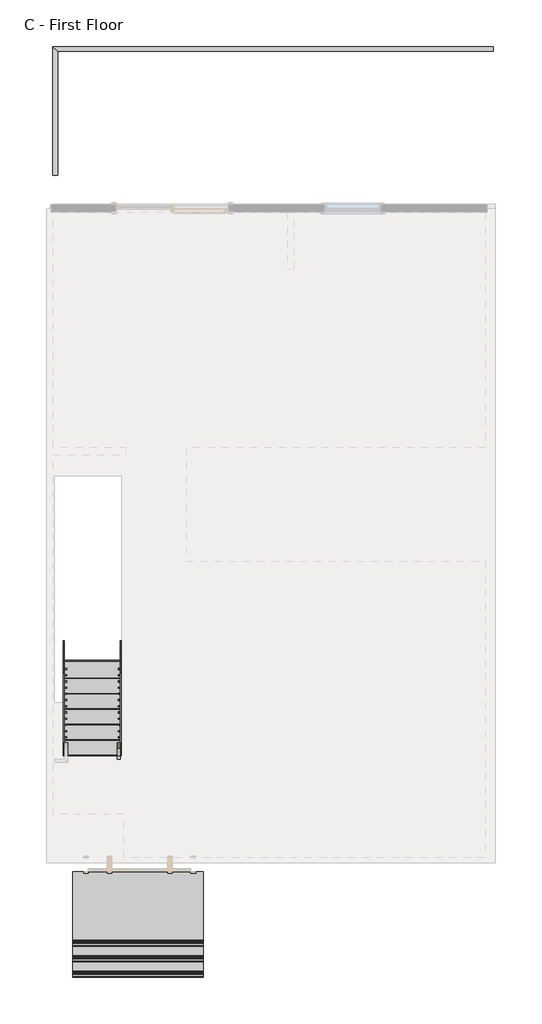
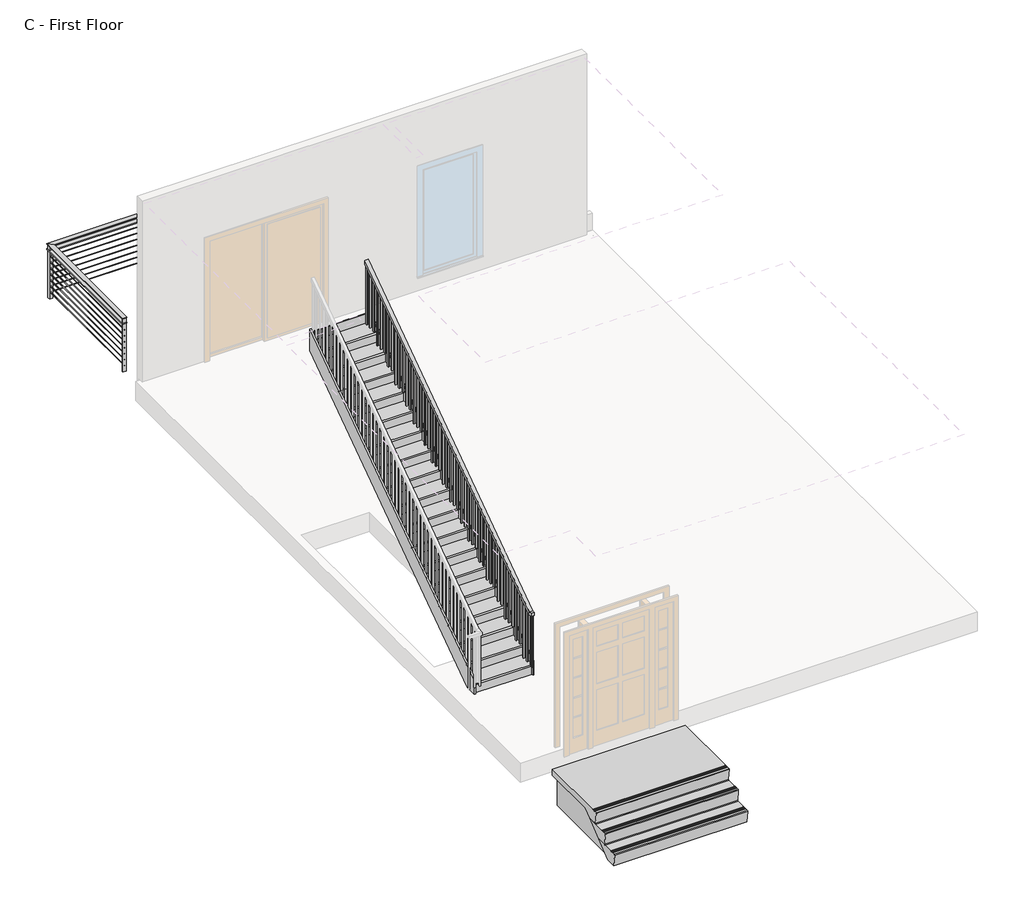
# One storey, part 2 of 2: 2 members, 2 railings, 1 proxy, 1 stair flight.
"""IFC4 building model written with IfcOpenShell, lengths in millimetres."""

from ifc_helpers import new_model, si_unit, frame, origin, place, context, project, spatial, polyline, circle_curve, ellipse_curve, outline, extrude, faceted_brep, transform, mapped, element, save
from ifc_brep_helpers import plane_surface, cylinder_surface, advanced_brep
from components import precast_porch_and_stair_11277_precast_porch_and_stair_11277_55bbf17a, stair_flight_560492a1

model = new_model("IFC4")

# Units and contexts
model_context = context("Model", 3, world=origin())
ifc_project = project(units=[si_unit("LENGTHUNIT", "METRE", prefix="MILLI")], contexts=[model_context])

# Site, building, storey
site = spatial("IfcSite", under=ifc_project)
building = spatial("IfcBuilding", under=site)
storey = spatial("IfcBuildingStorey", under=building, Name="C - First Floor", Elevation=1219.2)

# Proxy
placement = place(None, origin())
precast_porch_and_stair_11277_precast_porch_and_stair_11277_shape = precast_porch_and_stair_11277_precast_porch_and_stair_11277_55bbf17a(model_context)
element("IfcBuildingElementProxy", 1, Name="Precast_Porch_and_Stair_11277 : Precast_Porch_and_Stair_11277", ObjectType="Precast_Porch_and_Stair_11277 : Precast_Porch_and_Stair_11277", at=placement, inside=storey, context=model_context, shape_type="MappedRepresentation", body=[
    mapped(precast_porch_and_stair_11277_precast_porch_and_stair_11277_shape, transform((4755.498124, -7354.5289462, 457.2), x_axis=(0.0, -1.0, 0.0), y_axis=(1.0, 0.0, 0.0), z_axis=(0.0, 0.0, 1.0))),
])

# Members
element("IfcMember", 2, ObjectType="Stringer - Paint - 3/4\" Width", at=placement, inside=storey, context=model_context, shape_type="SweptSolid", body=[
    extrude(outline(polyline([(-5459.0539462, 1238.25), (-5459.0539462, 1476.1557145), (-887.0539462, 4670.539925), (-887.0539462, 4298.7139533), (-5267.3790017, 1238.25), (-5459.0539462, 1238.25)])), frame((3529.4870514, 0.0, 0.0), z_axis=(1.0, 0.0, 0.0), x_axis=(0.0, 1.0, 0.0)), (0.0, 0.0, 1.0), 19.05),
])
element("IfcMember", 3, ObjectType="Stringer - Paint - 3/4\" Width", at=placement, inside=storey, context=model_context, shape_type="SweptSolid", body=[
    extrude(outline(polyline([(-5459.0539462, 1238.25), (-5459.0539462, 1476.1557145), (-887.0539462, 4670.539925), (-887.0539462, 4298.7139533), (-5267.3790017, 1238.25), (-5459.0539462, 1238.25)])), frame((4462.9370514, 0.0, 0.0), z_axis=(1.0, 0.0, 0.0), x_axis=(0.0, 1.0, 0.0)), (0.0, 0.0, 1.0), 19.05),
])

# Railings
element("IfcRailing", 4, ObjectType="36\"", at=placement, inside=storey, context=model_context, shape_type="SolidModel", body=[
    faceted_brep([(10561.8552966, 6066.1960538, 1917.7), (10561.8552966, 6066.1960538, 1905.0), (10561.8552966, 6142.3960538, 1905.0), (10561.8552966, 6142.3960538, 1917.7), (3360.9552966, 6142.3960538, 1905.0), (3360.9552966, 6142.3960538, 1917.7), (3437.1552966, 6066.1960538, 1917.7), (3437.1552966, 4040.5460538, 1917.7), (3360.9552966, 4040.5460538, 1917.7), (3360.9552966, 4040.5460538, 1905.0), (3437.1552966, 4040.5460538, 1905.0), (3437.1552966, 6066.1960538, 1905.0)], [[[0, 1, 2, 3]], [[3, 2, 4, 5]], [[0, 3, 5, 6]], [[7, 8, 9, 10]], [[5, 4, 9, 8]], [[6, 5, 8, 7]], [[1, 0, 6, 11]], [[2, 1, 11, 4]], [[11, 6, 7, 10]], [[4, 11, 10, 9]]]),
    faceted_brep([(10561.8552966, 6142.3960538, 1828.8), (10561.8552966, 6066.1960538, 1828.8), (10561.8552966, 6066.1960538, 1816.1), (10561.8552966, 6142.3960538, 1816.1), (3360.9552966, 6142.3960538, 1828.8), (3437.1552966, 6066.1960538, 1828.8), (3437.1552966, 6066.1960538, 1816.1), (3360.9552966, 4040.5460538, 1828.8), (3360.9552966, 4040.5460538, 1816.1), (3437.1552966, 4040.5460538, 1816.1), (3437.1552966, 4040.5460538, 1828.8), (3360.9552966, 6142.3960538, 1816.1)], [[[0, 1, 2, 3]], [[1, 0, 4, 5]], [[2, 1, 5, 6]], [[7, 8, 9, 10]], [[5, 4, 7, 10]], [[6, 5, 10, 9]], [[3, 2, 6, 11]], [[0, 3, 11, 4]], [[11, 6, 9, 8]], [[4, 11, 8, 7]]]),
    advanced_brep(
    [(10561.8552966, 6101.1210538, 1714.5), (10561.8552966, 6107.4710538, 1714.5), (3402.2302966, 4040.5460538, 1714.5), (3395.8802966, 4040.5460538, 1714.5), (3402.2302966, 6101.1210538, 1714.5), (3395.8802966, 6107.4710538, 1714.5)],
    [
        (0, 1, circle_curve(frame((10561.8552966, 6104.2960538, 1714.5), z_axis=(1.0, 0.0, 0.0), x_axis=(0.0, 1.0, 0.0)), 3.175)),
        (1, 0, circle_curve(frame((10561.8552966, 6104.2960538, 1714.5), z_axis=(1.0, 0.0, 0.0), x_axis=(0.0, 1.0, 0.0)), 3.175)),
        (2, 3, circle_curve(frame((3399.0552966, 4040.5460538, 1714.5), z_axis=(0.0, -1.0, 0.0), x_axis=(-1.0, 0.0, 0.0)), 3.175)),
        (3, 2, circle_curve(frame((3399.0552966, 4040.5460538, 1714.5), z_axis=(0.0, -1.0, 0.0), x_axis=(-1.0, 0.0, 0.0)), 3.175)),
        (0, 4),
        (4, 5, ellipse_curve(frame((3399.0552966, 6104.2960538, 1714.5), z_axis=(0.7071067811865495, 0.7071067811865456, 0.0), x_axis=(0.7071067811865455, -0.7071067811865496, 0.0)), 4.4901281, 3.175)),
        (5, 1),
        (5, 4, ellipse_curve(frame((3399.0552966, 6104.2960538, 1714.5), z_axis=(0.7071067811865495, 0.7071067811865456, 0.0), x_axis=(0.7071067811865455, -0.7071067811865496, 0.0)), 4.4901281, 3.175)),
        (4, 2),
        (3, 5),
    ],
    [
        plane_surface(frame((10561.8552966, 6104.2960538, 1714.5), z_axis=(1.0, 0.0, 0.0), x_axis=(0.0, -1.0, 0.0))),
        plane_surface(frame((3399.0552966, 4040.5460538, 1714.5), z_axis=(0.0, -1.0, 0.0), x_axis=(0.0, 0.0, -1.0))),
        cylinder_surface(frame((10561.8552966, 6104.2960538, 1714.5), z_axis=(1.0, 0.0, 0.0), x_axis=(0.0, 1.0, 0.0)), 3.175),
        cylinder_surface(frame((3399.0552966, 6104.2960538, 1714.5), z_axis=(0.0, 1.0, 0.0), x_axis=(-1.0, 0.0, 0.0)), 3.175),
    ],
    [
        (0, [[1, 2]]),
        (1, [[3, 4]]),
        (2, [[-1, 5, 6, 7]]),
        (2, [[-2, -7, 8, -5]]),
        (3, [[-6, 9, -4, 10]]),
        (3, [[-8, -10, -3, -9]]),
    ],
),
    advanced_brep(
    [(10561.8552966, 6101.1210538, 1612.9), (10561.8552966, 6107.4710538, 1612.9), (3402.2302966, 6101.1210538, 1612.9), (3395.8802966, 6107.4710538, 1612.9), (3402.2302966, 4040.5460538, 1612.9), (3395.8802966, 4040.5460538, 1612.9)],
    [
        (0, 1, circle_curve(frame((10561.8552966, 6104.2960538, 1612.9), z_axis=(1.0, 0.0, 0.0), x_axis=(0.0, 1.0, 0.0)), 3.175)),
        (1, 0, circle_curve(frame((10561.8552966, 6104.2960538, 1612.9), z_axis=(1.0, 0.0, 0.0), x_axis=(0.0, 1.0, 0.0)), 3.175)),
        (0, 2),
        (2, 3, ellipse_curve(frame((3399.0552966, 6104.2960538, 1612.9), z_axis=(0.7071067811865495, 0.7071067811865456, 0.0), x_axis=(0.7071067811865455, -0.7071067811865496, 0.0)), 4.4901281, 3.175)),
        (3, 1),
        (3, 2, ellipse_curve(frame((3399.0552966, 6104.2960538, 1612.9), z_axis=(0.7071067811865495, 0.7071067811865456, 0.0), x_axis=(0.7071067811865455, -0.7071067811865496, 0.0)), 4.4901281, 3.175)),
        (4, 5, circle_curve(frame((3399.0552966, 4040.5460538, 1612.9), z_axis=(0.0, -1.0, 0.0), x_axis=(-1.0, 0.0, 0.0)), 3.175)),
        (5, 4, circle_curve(frame((3399.0552966, 4040.5460538, 1612.9), z_axis=(0.0, -1.0, 0.0), x_axis=(-1.0, 0.0, 0.0)), 3.175)),
        (2, 4),
        (5, 3),
    ],
    [
        plane_surface(frame((10561.8552966, 6104.2960538, 1612.9), z_axis=(1.0, 0.0, 0.0), x_axis=(0.0, -1.0, 0.0))),
        cylinder_surface(frame((10561.8552966, 6104.2960538, 1612.9), z_axis=(1.0, 0.0, 0.0), x_axis=(0.0, 1.0, 0.0)), 3.175),
        plane_surface(frame((3399.0552966, 4040.5460538, 1612.9), z_axis=(0.0, -1.0, 0.0), x_axis=(0.0, 0.0, -1.0))),
        cylinder_surface(frame((3399.0552966, 6104.2960538, 1612.9), z_axis=(0.0, 1.0, 0.0), x_axis=(-1.0, 0.0, 0.0)), 3.175),
    ],
    [
        (0, [[1, 2]]),
        (1, [[-1, 3, 4, 5]]),
        (1, [[-2, -5, 6, -3]]),
        (2, [[7, 8]]),
        (3, [[-4, 9, -8, 10]]),
        (3, [[-6, -10, -7, -9]]),
    ],
),
    advanced_brep(
    [(10561.8552966, 6101.1210538, 1511.3), (10561.8552966, 6107.4710538, 1511.3), (3402.2302966, 6101.1210538, 1511.3), (3395.8802966, 6107.4710538, 1511.3), (3402.2302966, 4040.5460538, 1511.3), (3395.8802966, 4040.5460538, 1511.3)],
    [
        (0, 1, circle_curve(frame((10561.8552966, 6104.2960538, 1511.3), z_axis=(1.0, 0.0, 0.0), x_axis=(0.0, 1.0, 0.0)), 3.175)),
        (1, 0, circle_curve(frame((10561.8552966, 6104.2960538, 1511.3), z_axis=(1.0, 0.0, 0.0), x_axis=(0.0, 1.0, 0.0)), 3.175)),
        (0, 2),
        (2, 3, ellipse_curve(frame((3399.0552966, 6104.2960538, 1511.3), z_axis=(0.7071067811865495, 0.7071067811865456, 0.0), x_axis=(0.7071067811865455, -0.7071067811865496, 0.0)), 4.4901281, 3.175)),
        (3, 1),
        (3, 2, ellipse_curve(frame((3399.0552966, 6104.2960538, 1511.3), z_axis=(0.7071067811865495, 0.7071067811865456, 0.0), x_axis=(0.7071067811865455, -0.7071067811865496, 0.0)), 4.4901281, 3.175)),
        (4, 5, circle_curve(frame((3399.0552966, 4040.5460538, 1511.3), z_axis=(0.0, -1.0, 0.0), x_axis=(-1.0, 0.0, 0.0)), 3.175)),
        (5, 4, circle_curve(frame((3399.0552966, 4040.5460538, 1511.3), z_axis=(0.0, -1.0, 0.0), x_axis=(-1.0, 0.0, 0.0)), 3.175)),
        (2, 4),
        (5, 3),
    ],
    [
        plane_surface(frame((10561.8552966, 6104.2960538, 1511.3), z_axis=(1.0, 0.0, 0.0), x_axis=(0.0, -1.0, 0.0))),
        cylinder_surface(frame((10561.8552966, 6104.2960538, 1511.3), z_axis=(1.0, 0.0, 0.0), x_axis=(0.0, 1.0, 0.0)), 3.175),
        plane_surface(frame((3399.0552966, 4040.5460538, 1511.3), z_axis=(0.0, -1.0, 0.0), x_axis=(0.0, 0.0, -1.0))),
        cylinder_surface(frame((3399.0552966, 6104.2960538, 1511.3), z_axis=(0.0, 1.0, 0.0), x_axis=(-1.0, 0.0, 0.0)), 3.175),
    ],
    [
        (0, [[1, 2]]),
        (1, [[-1, 3, 4, 5]]),
        (1, [[-2, -5, 6, -3]]),
        (2, [[7, 8]]),
        (3, [[-4, 9, -8, 10]]),
        (3, [[-6, -10, -7, -9]]),
    ],
),
    advanced_brep(
    [(10561.8552966, 6101.1210538, 1409.7), (10561.8552966, 6107.4710538, 1409.7), (3402.2302966, 6101.1210538, 1409.7), (3395.8802966, 6107.4710538, 1409.7), (3402.2302966, 4040.5460538, 1409.7), (3395.8802966, 4040.5460538, 1409.7)],
    [
        (0, 1, circle_curve(frame((10561.8552966, 6104.2960538, 1409.7), z_axis=(1.0, 0.0, 0.0), x_axis=(0.0, 1.0, 0.0)), 3.175)),
        (1, 0, circle_curve(frame((10561.8552966, 6104.2960538, 1409.7), z_axis=(1.0, 0.0, 0.0), x_axis=(0.0, 1.0, 0.0)), 3.175)),
        (0, 2),
        (2, 3, ellipse_curve(frame((3399.0552966, 6104.2960538, 1409.7), z_axis=(0.7071067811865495, 0.7071067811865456, 0.0), x_axis=(0.7071067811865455, -0.7071067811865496, 0.0)), 4.4901281, 3.175)),
        (3, 1),
        (3, 2, ellipse_curve(frame((3399.0552966, 6104.2960538, 1409.7), z_axis=(0.7071067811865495, 0.7071067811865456, 0.0), x_axis=(0.7071067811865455, -0.7071067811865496, 0.0)), 4.4901281, 3.175)),
        (4, 5, circle_curve(frame((3399.0552966, 4040.5460538, 1409.7), z_axis=(0.0, -1.0, 0.0), x_axis=(-1.0, 0.0, 0.0)), 3.175)),
        (5, 4, circle_curve(frame((3399.0552966, 4040.5460538, 1409.7), z_axis=(0.0, -1.0, 0.0), x_axis=(-1.0, 0.0, 0.0)), 3.175)),
        (2, 4),
        (5, 3),
    ],
    [
        plane_surface(frame((10561.8552966, 6104.2960538, 1409.7), z_axis=(1.0, 0.0, 0.0), x_axis=(0.0, -1.0, 0.0))),
        cylinder_surface(frame((10561.8552966, 6104.2960538, 1409.7), z_axis=(1.0, 0.0, 0.0), x_axis=(0.0, 1.0, 0.0)), 3.175),
        plane_surface(frame((3399.0552966, 4040.5460538, 1409.7), z_axis=(0.0, -1.0, 0.0), x_axis=(0.0, 0.0, -1.0))),
        cylinder_surface(frame((3399.0552966, 6104.2960538, 1409.7), z_axis=(0.0, 1.0, 0.0), x_axis=(-1.0, 0.0, 0.0)), 3.175),
    ],
    [
        (0, [[1, 2]]),
        (1, [[-1, 3, 4, 5]]),
        (1, [[-2, -5, 6, -3]]),
        (2, [[7, 8]]),
        (3, [[-4, 9, -8, 10]]),
        (3, [[-6, -10, -7, -9]]),
    ],
),
    advanced_brep(
    [(10561.8552966, 6101.1210538, 1308.1), (10561.8552966, 6107.4710538, 1308.1), (3402.2302966, 6101.1210538, 1308.1), (3395.8802966, 6107.4710538, 1308.1), (3402.2302966, 4040.5460538, 1308.1), (3395.8802966, 4040.5460538, 1308.1)],
    [
        (0, 1, circle_curve(frame((10561.8552966, 6104.2960538, 1308.1), z_axis=(1.0, 0.0, 0.0), x_axis=(0.0, 1.0, 0.0)), 3.175)),
        (1, 0, circle_curve(frame((10561.8552966, 6104.2960538, 1308.1), z_axis=(1.0, 0.0, 0.0), x_axis=(0.0, 1.0, 0.0)), 3.175)),
        (0, 2),
        (2, 3, ellipse_curve(frame((3399.0552966, 6104.2960538, 1308.1), z_axis=(0.7071067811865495, 0.7071067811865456, 0.0), x_axis=(0.7071067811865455, -0.7071067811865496, 0.0)), 4.4901281, 3.175)),
        (3, 1),
        (3, 2, ellipse_curve(frame((3399.0552966, 6104.2960538, 1308.1), z_axis=(0.7071067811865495, 0.7071067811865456, 0.0), x_axis=(0.7071067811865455, -0.7071067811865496, 0.0)), 4.4901281, 3.175)),
        (4, 5, circle_curve(frame((3399.0552966, 4040.5460538, 1308.1), z_axis=(0.0, -1.0, 0.0), x_axis=(-1.0, 0.0, 0.0)), 3.175)),
        (5, 4, circle_curve(frame((3399.0552966, 4040.5460538, 1308.1), z_axis=(0.0, -1.0, 0.0), x_axis=(-1.0, 0.0, 0.0)), 3.175)),
        (2, 4),
        (5, 3),
    ],
    [
        plane_surface(frame((10561.8552966, 6104.2960538, 1308.1), z_axis=(1.0, 0.0, 0.0), x_axis=(0.0, -1.0, 0.0))),
        cylinder_surface(frame((10561.8552966, 6104.2960538, 1308.1), z_axis=(1.0, 0.0, 0.0), x_axis=(0.0, 1.0, 0.0)), 3.175),
        plane_surface(frame((3399.0552966, 4040.5460538, 1308.1), z_axis=(0.0, -1.0, 0.0), x_axis=(0.0, 0.0, -1.0))),
        cylinder_surface(frame((3399.0552966, 6104.2960538, 1308.1), z_axis=(0.0, 1.0, 0.0), x_axis=(-1.0, 0.0, 0.0)), 3.175),
    ],
    [
        (0, [[1, 2]]),
        (1, [[-1, 3, 4, 5]]),
        (1, [[-2, -5, 6, -3]]),
        (2, [[7, 8]]),
        (3, [[-4, 9, -8, 10]]),
        (3, [[-6, -10, -7, -9]]),
    ],
),
    advanced_brep(
    [(10561.8552966, 6101.1210538, 1206.5), (10561.8552966, 6107.4710538, 1206.5), (3402.2302966, 6101.1210538, 1206.5), (3395.8802966, 6107.4710538, 1206.5), (3402.2302966, 4040.5460538, 1206.5), (3395.8802966, 4040.5460538, 1206.5)],
    [
        (0, 1, circle_curve(frame((10561.8552966, 6104.2960538, 1206.5), z_axis=(1.0, 0.0, 0.0), x_axis=(0.0, 1.0, 0.0)), 3.175)),
        (1, 0, circle_curve(frame((10561.8552966, 6104.2960538, 1206.5), z_axis=(1.0, 0.0, 0.0), x_axis=(0.0, 1.0, 0.0)), 3.175)),
        (0, 2),
        (2, 3, ellipse_curve(frame((3399.0552966, 6104.2960538, 1206.5), z_axis=(0.7071067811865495, 0.7071067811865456, 0.0), x_axis=(0.7071067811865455, -0.7071067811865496, 0.0)), 4.4901281, 3.175)),
        (3, 1),
        (3, 2, ellipse_curve(frame((3399.0552966, 6104.2960538, 1206.5), z_axis=(0.7071067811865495, 0.7071067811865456, 0.0), x_axis=(0.7071067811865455, -0.7071067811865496, 0.0)), 4.4901281, 3.175)),
        (4, 5, circle_curve(frame((3399.0552966, 4040.5460538, 1206.5), z_axis=(0.0, -1.0, 0.0), x_axis=(-1.0, 0.0, 0.0)), 3.175)),
        (5, 4, circle_curve(frame((3399.0552966, 4040.5460538, 1206.5), z_axis=(0.0, -1.0, 0.0), x_axis=(-1.0, 0.0, 0.0)), 3.175)),
        (2, 4),
        (5, 3),
    ],
    [
        plane_surface(frame((10561.8552966, 6104.2960538, 1206.5), z_axis=(1.0, 0.0, 0.0), x_axis=(0.0, -1.0, 0.0))),
        cylinder_surface(frame((10561.8552966, 6104.2960538, 1206.5), z_axis=(1.0, 0.0, 0.0), x_axis=(0.0, 1.0, 0.0)), 3.175),
        plane_surface(frame((3399.0552966, 4040.5460538, 1206.5), z_axis=(0.0, -1.0, 0.0), x_axis=(0.0, 0.0, -1.0))),
        cylinder_surface(frame((3399.0552966, 6104.2960538, 1206.5), z_axis=(0.0, 1.0, 0.0), x_axis=(-1.0, 0.0, 0.0)), 3.175),
    ],
    [
        (0, [[1, 2]]),
        (1, [[-1, 3, 4, 5]]),
        (1, [[-2, -5, 6, -3]]),
        (2, [[7, 8]]),
        (3, [[-4, 9, -8, 10]]),
        (3, [[-6, -10, -7, -9]]),
    ],
),
    advanced_brep(
    [(10561.8552966, 6101.1210538, 1104.9), (10561.8552966, 6107.4710538, 1104.9), (3402.2302966, 6101.1210538, 1104.9), (3395.8802966, 6107.4710538, 1104.9), (3402.2302966, 4040.5460538, 1104.9), (3395.8802966, 4040.5460538, 1104.9)],
    [
        (0, 1, circle_curve(frame((10561.8552966, 6104.2960538, 1104.9), z_axis=(1.0, 0.0, 0.0), x_axis=(0.0, 1.0, 0.0)), 3.175)),
        (1, 0, circle_curve(frame((10561.8552966, 6104.2960538, 1104.9), z_axis=(1.0, 0.0, 0.0), x_axis=(0.0, 1.0, 0.0)), 3.175)),
        (0, 2),
        (2, 3, ellipse_curve(frame((3399.0552966, 6104.2960538, 1104.9), z_axis=(0.7071067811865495, 0.7071067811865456, 0.0), x_axis=(0.7071067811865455, -0.7071067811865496, 0.0)), 4.4901281, 3.175)),
        (3, 1),
        (3, 2, ellipse_curve(frame((3399.0552966, 6104.2960538, 1104.9), z_axis=(0.7071067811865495, 0.7071067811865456, 0.0), x_axis=(0.7071067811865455, -0.7071067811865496, 0.0)), 4.4901281, 3.175)),
        (4, 5, circle_curve(frame((3399.0552966, 4040.5460538, 1104.9), z_axis=(0.0, -1.0, 0.0), x_axis=(-1.0, 0.0, 0.0)), 3.175)),
        (5, 4, circle_curve(frame((3399.0552966, 4040.5460538, 1104.9), z_axis=(0.0, -1.0, 0.0), x_axis=(-1.0, 0.0, 0.0)), 3.175)),
        (2, 4),
        (5, 3),
    ],
    [
        plane_surface(frame((10561.8552966, 6104.2960538, 1104.9), z_axis=(1.0, 0.0, 0.0), x_axis=(0.0, -1.0, 0.0))),
        cylinder_surface(frame((10561.8552966, 6104.2960538, 1104.9), z_axis=(1.0, 0.0, 0.0), x_axis=(0.0, 1.0, 0.0)), 3.175),
        plane_surface(frame((3399.0552966, 4040.5460538, 1104.9), z_axis=(0.0, -1.0, 0.0), x_axis=(0.0, 0.0, -1.0))),
        cylinder_surface(frame((3399.0552966, 6104.2960538, 1104.9), z_axis=(0.0, 1.0, 0.0), x_axis=(-1.0, 0.0, 0.0)), 3.175),
    ],
    [
        (0, [[1, 2]]),
        (1, [[-1, 3, 4, 5]]),
        (1, [[-2, -5, 6, -3]]),
        (2, [[7, 8]]),
        (3, [[-4, 9, -8, 10]]),
        (3, [[-6, -10, -7, -9]]),
    ],
),
    extrude(outline(polyline([(4825.2652966, 6078.8960538), (4825.2652966, 6129.6960538), (4837.9652966, 6129.6960538), (4837.9652966, 6078.8960538), (4825.2652966, 6078.8960538)])), frame((0.0, 0.0, 1003.3), z_axis=(0.0, 0.0, 1.0), x_axis=(1.0, 0.0, 0.0)), (0.0, 0.0, 1.0), 812.8),
    extrude(outline(polyline([(4825.2652966, 6078.8960538), (4825.2652966, 6129.6960538), (4837.9652966, 6129.6960538), (4837.9652966, 6078.8960538), (4825.2652966, 6078.8960538)])), frame((0.0, 0.0, 1828.8), z_axis=(0.0, 0.0, 1.0), x_axis=(1.0, 0.0, 0.0)), (0.0, 0.0, 1.0), 76.2),
    extrude(outline(polyline([(6257.8252966, 6078.8960538), (6257.8252966, 6129.6960538), (6270.5252966, 6129.6960538), (6270.5252966, 6078.8960538), (6257.8252966, 6078.8960538)])), frame((0.0, 0.0, 1003.3), z_axis=(0.0, 0.0, 1.0), x_axis=(1.0, 0.0, 0.0)), (0.0, 0.0, 1.0), 812.8),
    extrude(outline(polyline([(6257.8252966, 6078.8960538), (6257.8252966, 6129.6960538), (6270.5252966, 6129.6960538), (6270.5252966, 6078.8960538), (6257.8252966, 6078.8960538)])), frame((0.0, 0.0, 1828.8), z_axis=(0.0, 0.0, 1.0), x_axis=(1.0, 0.0, 0.0)), (0.0, 0.0, 1.0), 76.2),
    extrude(outline(polyline([(7690.3852966, 6078.8960538), (7690.3852966, 6129.6960538), (7703.0852966, 6129.6960538), (7703.0852966, 6078.8960538), (7690.3852966, 6078.8960538)])), frame((0.0, 0.0, 1003.3), z_axis=(0.0, 0.0, 1.0), x_axis=(1.0, 0.0, 0.0)), (0.0, 0.0, 1.0), 812.8),
    extrude(outline(polyline([(7690.3852966, 6078.8960538), (7690.3852966, 6129.6960538), (7703.0852966, 6129.6960538), (7703.0852966, 6078.8960538), (7690.3852966, 6078.8960538)])), frame((0.0, 0.0, 1828.8), z_axis=(0.0, 0.0, 1.0), x_axis=(1.0, 0.0, 0.0)), (0.0, 0.0, 1.0), 76.2),
    extrude(outline(polyline([(9122.9452966, 6078.8960538), (9122.9452966, 6129.6960538), (9135.6452966, 6129.6960538), (9135.6452966, 6078.8960538), (9122.9452966, 6078.8960538)])), frame((0.0, 0.0, 1003.3), z_axis=(0.0, 0.0, 1.0), x_axis=(1.0, 0.0, 0.0)), (0.0, 0.0, 1.0), 812.8),
    extrude(outline(polyline([(9122.9452966, 6078.8960538), (9122.9452966, 6129.6960538), (9135.6452966, 6129.6960538), (9135.6452966, 6078.8960538), (9122.9452966, 6078.8960538)])), frame((0.0, 0.0, 1828.8), z_axis=(0.0, 0.0, 1.0), x_axis=(1.0, 0.0, 0.0)), (0.0, 0.0, 1.0), 76.2),
    extrude(outline(polyline([(3373.6552966, 6078.8960538), (3373.6552966, 6129.6960538), (3424.4552966, 6129.6960538), (3424.4552966, 6078.8960538), (3373.6552966, 6078.8960538)])), frame((0.0, 0.0, 1003.3), z_axis=(0.0, 0.0, 1.0), x_axis=(1.0, 0.0, 0.0)), (0.0, 0.0, 1.0), 812.8),
    extrude(outline(polyline([(3373.6552966, 6078.8960538), (3373.6552966, 6129.6960538), (3424.4552966, 6129.6960538), (3424.4552966, 6078.8960538), (3373.6552966, 6078.8960538)])), frame((0.0, 0.0, 1828.8), z_axis=(0.0, 0.0, 1.0), x_axis=(1.0, 0.0, 0.0)), (0.0, 0.0, 1.0), 76.2),
    extrude(outline(polyline([(3424.4552966, 4040.5460538), (3373.6552966, 4040.5460538), (3373.6552966, 4053.2460538), (3424.4552966, 4053.2460538), (3424.4552966, 4040.5460538)])), frame((0.0, 0.0, 1003.3), z_axis=(0.0, 0.0, 1.0), x_axis=(1.0, 0.0, 0.0)), (0.0, 0.0, 1.0), 812.8),
    extrude(outline(polyline([(3424.4552966, 4040.5460538), (3373.6552966, 4040.5460538), (3373.6552966, 4053.2460538), (3424.4552966, 4053.2460538), (3424.4552966, 4040.5460538)])), frame((0.0, 0.0, 1828.8), z_axis=(0.0, 0.0, 1.0), x_axis=(1.0, 0.0, 0.0)), (0.0, 0.0, 1.0), 76.2),
    extrude(outline(polyline([(10549.1552966, 6078.8960538), (10549.1552966, 6129.6960538), (10561.8552966, 6129.6960538), (10561.8552966, 6078.8960538), (10549.1552966, 6078.8960538)])), frame((0.0, 0.0, 1003.3), z_axis=(0.0, 0.0, 1.0), x_axis=(1.0, 0.0, 0.0)), (0.0, 0.0, 1.0), 812.8),
    extrude(outline(polyline([(10549.1552966, 6078.8960538), (10549.1552966, 6129.6960538), (10561.8552966, 6129.6960538), (10561.8552966, 6078.8960538), (10549.1552966, 6078.8960538)])), frame((0.0, 0.0, 1828.8), z_axis=(0.0, 0.0, 1.0), x_axis=(1.0, 0.0, 0.0)), (0.0, 0.0, 1.0), 76.2),
])
element("IfcRailing", 5, ObjectType="Handrail - Rectangular", at=placement, inside=storey, context=model_context, shape_type="SolidModel", body=[
    faceted_brep([(4412.1370514, -5509.8539462, 2330.1157895), (4412.1370514, -5509.8539462, 2279.3157895), (4462.9370514, -5509.8539462, 2279.3157895), (4462.9370514, -5509.8539462, 2330.1157895), (4412.1370514, -5459.0539462, 2330.1157895), (4412.1370514, -5443.0653277, 2279.3157895), (4462.9370514, -5443.0653277, 2279.3157895), (4462.9370514, -5459.0539462, 2330.1157895), (4412.1370514, -887.0539462, 5524.5), (4462.9370514, -887.0539462, 5524.5), (4462.9370514, -887.0539462, 5462.5290047), (4412.1370514, -887.0539462, 5462.5290047)], [[[0, 1, 2, 3]], [[1, 0, 4, 5]], [[2, 1, 5, 6]], [[3, 2, 6, 7]], [[0, 3, 7, 4]], [[8, 9, 10, 11]], [[5, 4, 8, 11]], [[6, 5, 11, 10]], [[7, 6, 10, 9]], [[4, 7, 9, 8]]]),
    extrude(outline(polyline([(-998.1789462, 5384.8877218), (-979.1289462, 5398.197656), (-979.1289462, 4432.6342105), (-998.1789462, 4432.6342105), (-998.1789462, 5384.8877218)])), frame((4428.0120514, 0.0, 0.0), z_axis=(1.0, 0.0, 0.0), x_axis=(0.0, 1.0, 0.0)), (0.0, 0.0, 1.0), 19.05),
    extrude(outline(polyline([(-1099.7789462, 5313.901406), (-1080.7289462, 5327.2113402), (-1080.7289462, 4432.6342105), (-1099.7789462, 4432.6342105), (-1099.7789462, 5313.901406)])), frame((4428.0120514, 0.0, 0.0), z_axis=(1.0, 0.0, 0.0), x_axis=(0.0, 1.0, 0.0)), (0.0, 0.0, 1.0), 19.05),
    extrude(outline(polyline([(-1201.3789462, 5242.9150902), (-1182.3289462, 5256.2250244), (-1182.3289462, 4255.1684211), (-1201.3789462, 4255.1684211), (-1201.3789462, 5242.9150902)])), frame((4428.0120514, 0.0, 0.0), z_axis=(1.0, 0.0, 0.0), x_axis=(0.0, 1.0, 0.0)), (0.0, 0.0, 1.0), 19.05),
    extrude(outline(polyline([(-1302.9789462, 5171.9287744), (-1283.9289462, 5185.2387087), (-1283.9289462, 4255.1684211), (-1302.9789462, 4255.1684211), (-1302.9789462, 5171.9287744)])), frame((4428.0120514, 0.0, 0.0), z_axis=(1.0, 0.0, 0.0), x_axis=(0.0, 1.0, 0.0)), (0.0, 0.0, 1.0), 19.05),
    extrude(outline(polyline([(-1404.5789462, 5100.9424587), (-1385.5289462, 5114.2523929), (-1385.5289462, 4255.1684211), (-1404.5789462, 4255.1684211), (-1404.5789462, 5100.9424587)])), frame((4428.0120514, 0.0, 0.0), z_axis=(1.0, 0.0, 0.0), x_axis=(0.0, 1.0, 0.0)), (0.0, 0.0, 1.0), 19.05),
    extrude(outline(polyline([(-1506.1789462, 5029.9561429), (-1487.1289462, 5043.2660771), (-1487.1289462, 4077.7026316), (-1506.1789462, 4077.7026316), (-1506.1789462, 5029.9561429)])), frame((4428.0120514, 0.0, 0.0), z_axis=(1.0, 0.0, 0.0), x_axis=(0.0, 1.0, 0.0)), (0.0, 0.0, 1.0), 19.05),
    extrude(outline(polyline([(-1607.7789462, 4958.9698271), (-1588.7289462, 4972.2797613), (-1588.7289462, 4077.7026316), (-1607.7789462, 4077.7026316), (-1607.7789462, 4958.9698271)])), frame((4428.0120514, 0.0, 0.0), z_axis=(1.0, 0.0, 0.0), x_axis=(0.0, 1.0, 0.0)), (0.0, 0.0, 1.0), 19.05),
    extrude(outline(polyline([(-1709.3789462, 4887.9835113), (-1690.3289462, 4901.2934455), (-1690.3289462, 3900.2368421), (-1709.3789462, 3900.2368421), (-1709.3789462, 4887.9835113)])), frame((4428.0120514, 0.0, 0.0), z_axis=(1.0, 0.0, 0.0), x_axis=(0.0, 1.0, 0.0)), (0.0, 0.0, 1.0), 19.05),
    extrude(outline(polyline([(-1810.9789462, 4816.9971955), (-1791.9289462, 4830.3071297), (-1791.9289462, 3900.2368421), (-1810.9789462, 3900.2368421), (-1810.9789462, 4816.9971955)])), frame((4428.0120514, 0.0, 0.0), z_axis=(1.0, 0.0, 0.0), x_axis=(0.0, 1.0, 0.0)), (0.0, 0.0, 1.0), 19.05),
    extrude(outline(polyline([(-1912.5789462, 4746.0108797), (-1893.5289462, 4759.3208139), (-1893.5289462, 3900.2368421), (-1912.5789462, 3900.2368421), (-1912.5789462, 4746.0108797)])), frame((4428.0120514, 0.0, 0.0), z_axis=(1.0, 0.0, 0.0), x_axis=(0.0, 1.0, 0.0)), (0.0, 0.0, 1.0), 19.05),
    extrude(outline(polyline([(-2014.1789462, 4675.0245639), (-1995.1289462, 4688.3344981), (-1995.1289462, 3722.7710526), (-2014.1789462, 3722.7710526), (-2014.1789462, 4675.0245639)])), frame((4428.0120514, 0.0, 0.0), z_axis=(1.0, 0.0, 0.0), x_axis=(0.0, 1.0, 0.0)), (0.0, 0.0, 1.0), 19.05),
    extrude(outline(polyline([(-2115.7789462, 4604.0382481), (-2096.7289462, 4617.3481823), (-2096.7289462, 3722.7710526), (-2115.7789462, 3722.7710526), (-2115.7789462, 4604.0382481)])), frame((4428.0120514, 0.0, 0.0), z_axis=(1.0, 0.0, 0.0), x_axis=(0.0, 1.0, 0.0)), (0.0, 0.0, 1.0), 19.05),
    extrude(outline(polyline([(-2217.3789462, 4533.0519323), (-2198.3289462, 4546.3618666), (-2198.3289462, 3545.3052632), (-2217.3789462, 3545.3052632), (-2217.3789462, 4533.0519323)])), frame((4428.0120514, 0.0, 0.0), z_axis=(1.0, 0.0, 0.0), x_axis=(0.0, 1.0, 0.0)), (0.0, 0.0, 1.0), 19.05),
    extrude(outline(polyline([(-2318.9789462, 4462.0656166), (-2299.9289462, 4475.3755508), (-2299.9289462, 3545.3052632), (-2318.9789462, 3545.3052632), (-2318.9789462, 4462.0656166)])), frame((4428.0120514, 0.0, 0.0), z_axis=(1.0, 0.0, 0.0), x_axis=(0.0, 1.0, 0.0)), (0.0, 0.0, 1.0), 19.05),
    extrude(outline(polyline([(-2420.5789462, 4391.0793008), (-2401.5289462, 4404.389235), (-2401.5289462, 3545.3052632), (-2420.5789462, 3545.3052632), (-2420.5789462, 4391.0793008)])), frame((4428.0120514, 0.0, 0.0), z_axis=(1.0, 0.0, 0.0), x_axis=(0.0, 1.0, 0.0)), (0.0, 0.0, 1.0), 19.05),
    extrude(outline(polyline([(-2522.1789462, 4320.092985), (-2503.1289462, 4333.4029192), (-2503.1289462, 3367.8394737), (-2522.1789462, 3367.8394737), (-2522.1789462, 4320.092985)])), frame((4428.0120514, 0.0, 0.0), z_axis=(1.0, 0.0, 0.0), x_axis=(0.0, 1.0, 0.0)), (0.0, 0.0, 1.0), 19.05),
    extrude(outline(polyline([(-2623.7789462, 4249.1066692), (-2604.7289462, 4262.4166034), (-2604.7289462, 3367.8394737), (-2623.7789462, 3367.8394737), (-2623.7789462, 4249.1066692)])), frame((4428.0120514, 0.0, 0.0), z_axis=(1.0, 0.0, 0.0), x_axis=(0.0, 1.0, 0.0)), (0.0, 0.0, 1.0), 19.05),
    extrude(outline(polyline([(-2725.3789462, 4178.1203534), (-2706.3289462, 4191.4302876), (-2706.3289462, 3190.3736842), (-2725.3789462, 3190.3736842), (-2725.3789462, 4178.1203534)])), frame((4428.0120514, 0.0, 0.0), z_axis=(1.0, 0.0, 0.0), x_axis=(0.0, 1.0, 0.0)), (0.0, 0.0, 1.0), 19.05),
    extrude(outline(polyline([(-2826.9789462, 4107.1340376), (-2807.9289462, 4120.4439718), (-2807.9289462, 3190.3736842), (-2826.9789462, 3190.3736842), (-2826.9789462, 4107.1340376)])), frame((4428.0120514, 0.0, 0.0), z_axis=(1.0, 0.0, 0.0), x_axis=(0.0, 1.0, 0.0)), (0.0, 0.0, 1.0), 19.05),
    extrude(outline(polyline([(-2928.5789462, 4036.1477218), (-2909.5289462, 4049.457656), (-2909.5289462, 3190.3736842), (-2928.5789462, 3190.3736842), (-2928.5789462, 4036.1477218)])), frame((4428.0120514, 0.0, 0.0), z_axis=(1.0, 0.0, 0.0), x_axis=(0.0, 1.0, 0.0)), (0.0, 0.0, 1.0), 19.05),
    extrude(outline(polyline([(-3030.1789462, 3965.161406), (-3011.1289462, 3978.4713402), (-3011.1289462, 3012.9078947), (-3030.1789462, 3012.9078947), (-3030.1789462, 3965.161406)])), frame((4428.0120514, 0.0, 0.0), z_axis=(1.0, 0.0, 0.0), x_axis=(0.0, 1.0, 0.0)), (0.0, 0.0, 1.0), 19.05),
    extrude(outline(polyline([(-3131.7789462, 3894.1750902), (-3112.7289462, 3907.4850244), (-3112.7289462, 3012.9078947), (-3131.7789462, 3012.9078947), (-3131.7789462, 3894.1750902)])), frame((4428.0120514, 0.0, 0.0), z_axis=(1.0, 0.0, 0.0), x_axis=(0.0, 1.0, 0.0)), (0.0, 0.0, 1.0), 19.05),
    extrude(outline(polyline([(-3233.3789462, 3823.1887744), (-3214.3289462, 3836.4987087), (-3214.3289462, 2835.4421053), (-3233.3789462, 2835.4421053), (-3233.3789462, 3823.1887744)])), frame((4428.0120514, 0.0, 0.0), z_axis=(1.0, 0.0, 0.0), x_axis=(0.0, 1.0, 0.0)), (0.0, 0.0, 1.0), 19.05),
    extrude(outline(polyline([(-3334.9789462, 3752.2024587), (-3315.9289462, 3765.5123929), (-3315.9289462, 2835.4421053), (-3334.9789462, 2835.4421053), (-3334.9789462, 3752.2024587)])), frame((4428.0120514, 0.0, 0.0), z_axis=(1.0, 0.0, 0.0), x_axis=(0.0, 1.0, 0.0)), (0.0, 0.0, 1.0), 19.05),
    extrude(outline(polyline([(-3436.5789462, 3681.2161429), (-3417.5289462, 3694.5260771), (-3417.5289462, 2835.4421053), (-3436.5789462, 2835.4421053), (-3436.5789462, 3681.2161429)])), frame((4428.0120514, 0.0, 0.0), z_axis=(1.0, 0.0, 0.0), x_axis=(0.0, 1.0, 0.0)), (0.0, 0.0, 1.0), 19.05),
    extrude(outline(polyline([(-3538.1789462, 3610.2298271), (-3519.1289462, 3623.5397613), (-3519.1289462, 2657.9763158), (-3538.1789462, 2657.9763158), (-3538.1789462, 3610.2298271)])), frame((4428.0120514, 0.0, 0.0), z_axis=(1.0, 0.0, 0.0), x_axis=(0.0, 1.0, 0.0)), (0.0, 0.0, 1.0), 19.05),
    extrude(outline(polyline([(-3639.7789462, 3539.2435113), (-3620.7289462, 3552.5534455), (-3620.7289462, 2657.9763158), (-3639.7789462, 2657.9763158), (-3639.7789462, 3539.2435113)])), frame((4428.0120514, 0.0, 0.0), z_axis=(1.0, 0.0, 0.0), x_axis=(0.0, 1.0, 0.0)), (0.0, 0.0, 1.0), 19.05),
    extrude(outline(polyline([(-3741.3789462, 3468.2571955), (-3722.3289462, 3481.5671297), (-3722.3289462, 2480.5105263), (-3741.3789462, 2480.5105263), (-3741.3789462, 3468.2571955)])), frame((4428.0120514, 0.0, 0.0), z_axis=(1.0, 0.0, 0.0), x_axis=(0.0, 1.0, 0.0)), (0.0, 0.0, 1.0), 19.05),
    extrude(outline(polyline([(-3842.9789462, 3397.2708797), (-3823.9289462, 3410.5808139), (-3823.9289462, 2480.5105263), (-3842.9789462, 2480.5105263), (-3842.9789462, 3397.2708797)])), frame((4428.0120514, 0.0, 0.0), z_axis=(1.0, 0.0, 0.0), x_axis=(0.0, 1.0, 0.0)), (0.0, 0.0, 1.0), 19.05),
    extrude(outline(polyline([(-3944.5789462, 3326.2845639), (-3925.5289462, 3339.5944981), (-3925.5289462, 2480.5105263), (-3944.5789462, 2480.5105263), (-3944.5789462, 3326.2845639)])), frame((4428.0120514, 0.0, 0.0), z_axis=(1.0, 0.0, 0.0), x_axis=(0.0, 1.0, 0.0)), (0.0, 0.0, 1.0), 19.05),
    extrude(outline(polyline([(-4046.1789462, 3255.2982481), (-4027.1289462, 3268.6081823), (-4027.1289462, 2303.0447368), (-4046.1789462, 2303.0447368), (-4046.1789462, 3255.2982481)])), frame((4428.0120514, 0.0, 0.0), z_axis=(1.0, 0.0, 0.0), x_axis=(0.0, 1.0, 0.0)), (0.0, 0.0, 1.0), 19.05),
    extrude(outline(polyline([(-4147.7789462, 3184.3119323), (-4128.7289462, 3197.6218666), (-4128.7289462, 2303.0447368), (-4147.7789462, 2303.0447368), (-4147.7789462, 3184.3119323)])), frame((4428.0120514, 0.0, 0.0), z_axis=(1.0, 0.0, 0.0), x_axis=(0.0, 1.0, 0.0)), (0.0, 0.0, 1.0), 19.05),
    extrude(outline(polyline([(-4249.3789462, 3113.3256166), (-4230.3289462, 3126.6355508), (-4230.3289462, 2125.5789474), (-4249.3789462, 2125.5789474), (-4249.3789462, 3113.3256166)])), frame((4428.0120514, 0.0, 0.0), z_axis=(1.0, 0.0, 0.0), x_axis=(0.0, 1.0, 0.0)), (0.0, 0.0, 1.0), 19.05),
    extrude(outline(polyline([(-4350.9789462, 3042.3393008), (-4331.9289462, 3055.649235), (-4331.9289462, 2125.5789474), (-4350.9789462, 2125.5789474), (-4350.9789462, 3042.3393008)])), frame((4428.0120514, 0.0, 0.0), z_axis=(1.0, 0.0, 0.0), x_axis=(0.0, 1.0, 0.0)), (0.0, 0.0, 1.0), 19.05),
    extrude(outline(polyline([(-4452.5789462, 2971.352985), (-4433.5289462, 2984.6629192), (-4433.5289462, 2125.5789474), (-4452.5789462, 2125.5789474), (-4452.5789462, 2971.352985)])), frame((4428.0120514, 0.0, 0.0), z_axis=(1.0, 0.0, 0.0), x_axis=(0.0, 1.0, 0.0)), (0.0, 0.0, 1.0), 19.05),
    extrude(outline(polyline([(-4554.1789462, 2900.3666692), (-4535.1289462, 2913.6766034), (-4535.1289462, 1948.1131579), (-4554.1789462, 1948.1131579), (-4554.1789462, 2900.3666692)])), frame((4428.0120514, 0.0, 0.0), z_axis=(1.0, 0.0, 0.0), x_axis=(0.0, 1.0, 0.0)), (0.0, 0.0, 1.0), 19.05),
    extrude(outline(polyline([(-4655.7789462, 2829.3803534), (-4636.7289462, 2842.6902876), (-4636.7289462, 1948.1131579), (-4655.7789462, 1948.1131579), (-4655.7789462, 2829.3803534)])), frame((4428.0120514, 0.0, 0.0), z_axis=(1.0, 0.0, 0.0), x_axis=(0.0, 1.0, 0.0)), (0.0, 0.0, 1.0), 19.05),
    extrude(outline(polyline([(-4757.3789462, 2758.3940376), (-4738.3289462, 2771.7039718), (-4738.3289462, 1770.6473684), (-4757.3789462, 1770.6473684), (-4757.3789462, 2758.3940376)])), frame((4428.0120514, 0.0, 0.0), z_axis=(1.0, 0.0, 0.0), x_axis=(0.0, 1.0, 0.0)), (0.0, 0.0, 1.0), 19.05),
    extrude(outline(polyline([(-4858.9789462, 2687.4077218), (-4839.9289462, 2700.717656), (-4839.9289462, 1770.6473684), (-4858.9789462, 1770.6473684), (-4858.9789462, 2687.4077218)])), frame((4428.0120514, 0.0, 0.0), z_axis=(1.0, 0.0, 0.0), x_axis=(0.0, 1.0, 0.0)), (0.0, 0.0, 1.0), 19.05),
    extrude(outline(polyline([(-4960.5789462, 2616.421406), (-4941.5289462, 2629.7313402), (-4941.5289462, 1770.6473684), (-4960.5789462, 1770.6473684), (-4960.5789462, 2616.421406)])), frame((4428.0120514, 0.0, 0.0), z_axis=(1.0, 0.0, 0.0), x_axis=(0.0, 1.0, 0.0)), (0.0, 0.0, 1.0), 19.05),
    extrude(outline(polyline([(-5062.1789462, 2545.4350902), (-5043.1289462, 2558.7450244), (-5043.1289462, 1593.1815789), (-5062.1789462, 1593.1815789), (-5062.1789462, 2545.4350902)])), frame((4428.0120514, 0.0, 0.0), z_axis=(1.0, 0.0, 0.0), x_axis=(0.0, 1.0, 0.0)), (0.0, 0.0, 1.0), 19.05),
    extrude(outline(polyline([(-5163.7789462, 2474.4487744), (-5144.7289462, 2487.7587087), (-5144.7289462, 1593.1815789), (-5163.7789462, 1593.1815789), (-5163.7789462, 2474.4487744)])), frame((4428.0120514, 0.0, 0.0), z_axis=(1.0, 0.0, 0.0), x_axis=(0.0, 1.0, 0.0)), (0.0, 0.0, 1.0), 19.05),
    extrude(outline(polyline([(-5265.3789462, 2403.4624587), (-5246.3289462, 2416.7723929), (-5246.3289462, 1415.7157895), (-5265.3789462, 1415.7157895), (-5265.3789462, 2403.4624587)])), frame((4428.0120514, 0.0, 0.0), z_axis=(1.0, 0.0, 0.0), x_axis=(0.0, 1.0, 0.0)), (0.0, 0.0, 1.0), 19.05),
    extrude(outline(polyline([(-5366.9789462, 2332.4761429), (-5347.9289462, 2345.7860771), (-5347.9289462, 1415.7157895), (-5366.9789462, 1415.7157895), (-5366.9789462, 2332.4761429)])), frame((4428.0120514, 0.0, 0.0), z_axis=(1.0, 0.0, 0.0), x_axis=(0.0, 1.0, 0.0)), (0.0, 0.0, 1.0), 19.05),
    extrude(outline(polyline([(4447.0620514, -5468.5789462), (4428.0120514, -5468.5789462), (4428.0120514, -5449.5289462), (4447.0620514, -5449.5289462), (4447.0620514, -5468.5789462)])), frame((0.0, 0.0, 1415.7157895), z_axis=(0.0, 0.0, 1.0), x_axis=(1.0, 0.0, 0.0)), (0.0, 0.0, 1.0), 863.6),
    extrude(outline(polyline([(-906.1039462, 5449.2190705), (-887.0539462, 5462.5290047), (-887.0539462, 4432.6342105), (-906.1039462, 4432.6342105), (-906.1039462, 5449.2190705)])), frame((4428.0120514, 0.0, 0.0), z_axis=(1.0, 0.0, 0.0), x_axis=(0.0, 1.0, 0.0)), (0.0, 0.0, 1.0), 19.05),
    extrude(outline(polyline([(4447.0620514, -5509.8539462), (4428.0120514, -5509.8539462), (4428.0120514, -5490.8039462), (4447.0620514, -5490.8039462), (4447.0620514, -5509.8539462)])), frame((0.0, 0.0, 1415.7157895), z_axis=(0.0, 0.0, 1.0), x_axis=(1.0, 0.0, 0.0)), (0.0, 0.0, 1.0), 863.6),
])

# Stair flight
stair_flight_shape = stair_flight_560492a1(model_context)
element("IfcStairFlight", 6, ObjectType="Wood Steps with 1\" Front Nosing", at=placement, inside=storey, context=model_context, shape_type="MappedRepresentation", body=[
    mapped(stair_flight_shape, transform((0.0, 0.0, 0.0), x_axis=(1.0, 0.0, 0.0), y_axis=(0.0, 1.0, 0.0), z_axis=(0.0, 0.0, 1.0))),
])

save(model, "model.ifc")
